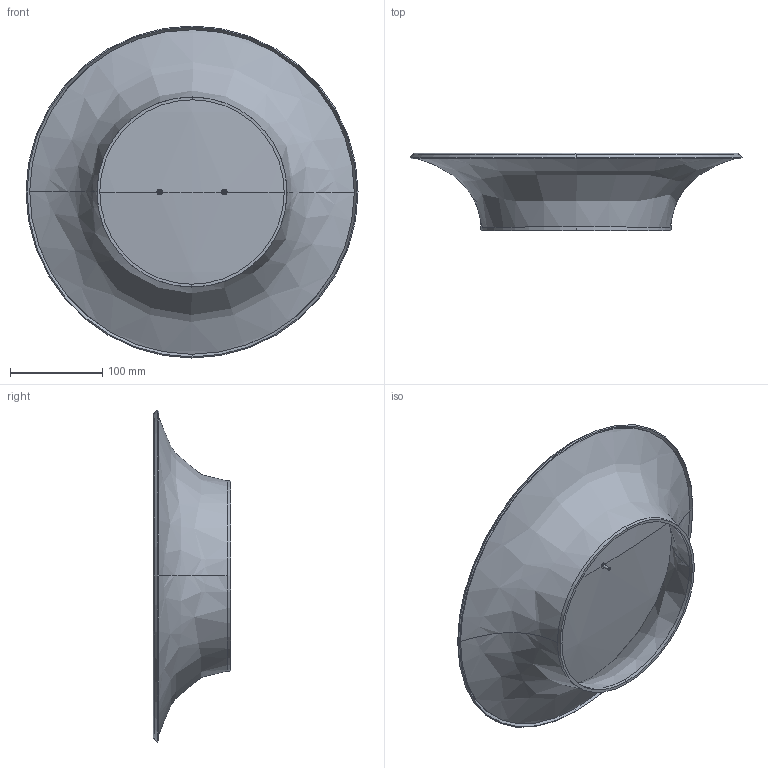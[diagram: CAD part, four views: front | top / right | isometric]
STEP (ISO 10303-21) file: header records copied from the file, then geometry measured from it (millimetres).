
FILE_DESCRIPTION (( 'STEP AP203' ), '1' );
FILE_NAME ('321_PICCOLA_WC_LD_3D.STEP', '2024-05-20T14:02:48', ( '' ), ( '' ), 'SwSTEP 2.0', 'SolidWorks 2023', '' );
FILE_SCHEMA (( 'CONFIG_CONTROL_DESIGN' ));
Length unit declared in the file: millimetre
Products named in the file (1): 321_PICCOLA_WC_LD_3D
Bounding box: 360 x 84.08 x 360 mm (x, y, z)
Volume: 444160.1 mm3; surface area: 406883.8 mm2
Topology: 2 solids, 2 shells, 44 faces, 100 edges, 58 vertices
Faces by surface type: cone 18, cylinder 8, sphere 8, bspline 4, torus 4, plane 2
Entity records: 1653 total; most frequent: CARTESIAN_POINT 555, DIRECTION 248, ORIENTED_EDGE 200, AXIS2_PLACEMENT_3D 111, EDGE_CURVE 100, CIRCLE 70, VERTEX_POINT 58, EDGE_LOOP 44
